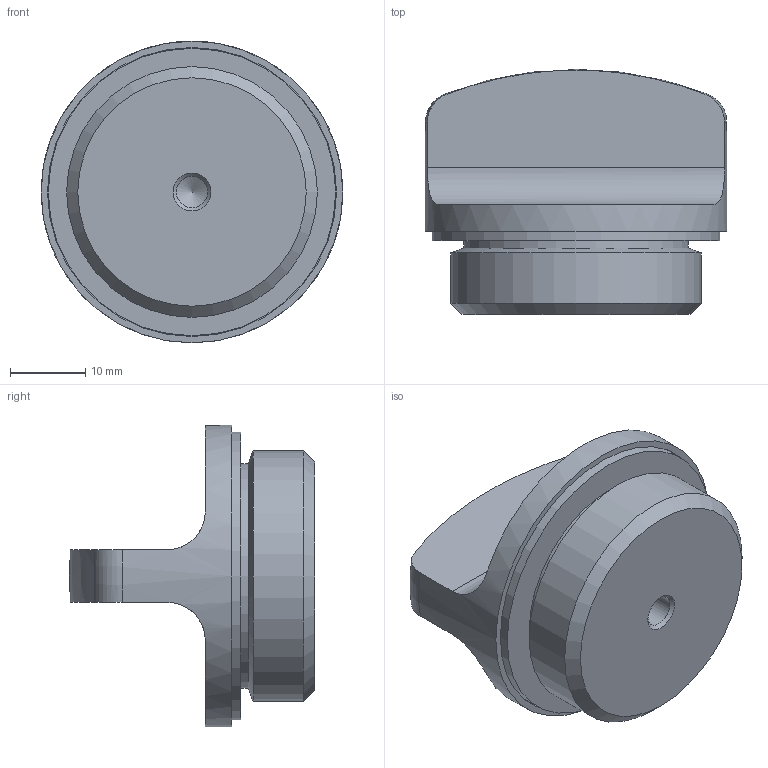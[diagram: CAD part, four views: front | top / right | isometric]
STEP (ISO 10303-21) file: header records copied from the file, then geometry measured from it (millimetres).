
FILE_DESCRIPTION( ( 'STEP AP203' ), '1' );
FILE_NAME( 'C:/Temp/Ganter_Step_05_03_2020/data/3_5/gn441/Threaded plug GN 441-40-G1-1-BL.stp', '2020-03-12T13:34:51', ( 'License CC BY-ND 4.0' ), ( 'CADENAS' ), ' ', 'PARTsolutions', ' ' );
FILE_SCHEMA( ( 'CONFIG_CONTROL_DESIGN' ) );
Length unit declared in the file: millimetre
Products named in the file (1): _Threaded plug GN 441-40-G1-1-BL
Bounding box: 40 x 32.5 x 40 mm (x, y, z)
Volume: 18696.5 mm3; surface area: 6505.5 mm2
Topology: 1 solids, 2 shells, 29 faces, 61 edges, 39 vertices
Faces by surface type: cylinder 11, plane 11, cone 4, torus 2, sphere 1
Full cylindrical faces by diameter (mm): 4.134 x1, 29.8 x2, 33.249 x1, 33.4 x1, 33.5 x1, 38.1 x1, 38.3 x1, 40 x1
Entity records: 846 total; most frequent: CARTESIAN_POINT 242, DIRECTION 122, ORIENTED_EDGE 86, AXIS2_PLACEMENT_3D 57, EDGE_LOOP 48, EDGE_CURVE 43, FACE_OUTER_BOUND 38, VERTEX_POINT 37
